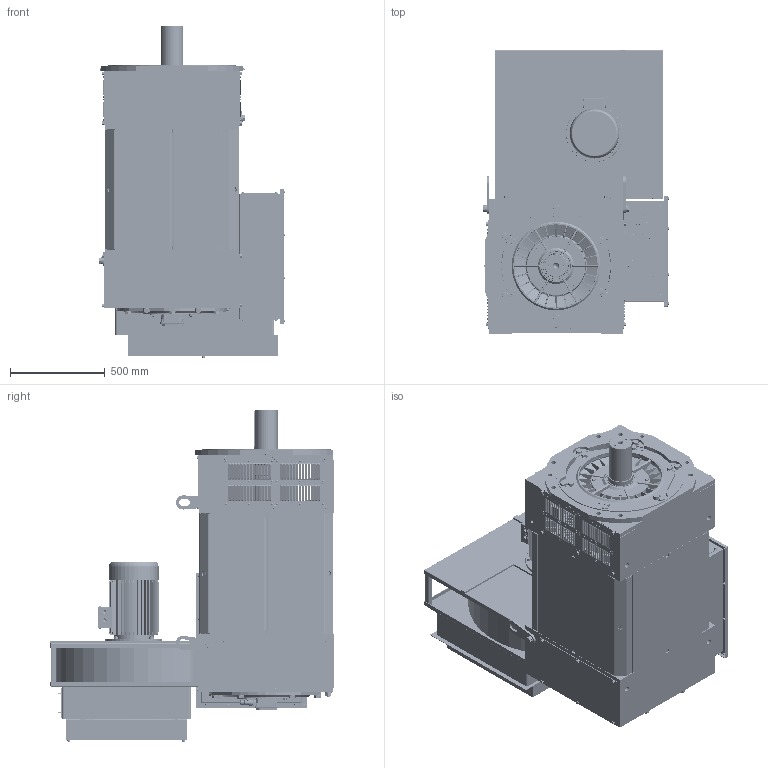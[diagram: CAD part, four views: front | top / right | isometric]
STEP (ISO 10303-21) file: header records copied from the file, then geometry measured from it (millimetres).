
FILE_DESCRIPTION (( 'STEP AP214' ), '1' );
FILE_NAME ('355_S_HQLa.STEP', '2023-01-21T09:45:29', ( '' ), ( '' ), 'SwSTEP 2.0', 'SolidWorks 2022', '' );
FILE_SCHEMA (( 'AUTOMOTIVE_DESIGN' ));
Length unit declared in the file: millimetre
Products named in the file (52): NU_226EC_SKF; plain washer normal grade c_iso_Washer ISO 7091 - 10; 3WU355PHA_S; hex nut style 2 gradeab_iso_ISO - 4033 - M10 - W - N; 3CU355PFA; 3DU355PGA_POST; hex screw gradec_din_DIN EN 24018 - M10 x 100-WN; 3YU335PMA_M; TIRANTE_M20_L1015; 3YU355PHA; plain washer chamfered grade a_iso_Washer ISO 7090 - 8; 3CU355PEA; pan head cross recess screw_iso_ISO 7045 - M5 x 10 - Z - 10N; FILTRO_700x630x100; 3AU355CAA_S; MOTORE_3F_7.5Kw_400v_50Hz; socket head cap screw_iso_ISO 4762 M3 x 6 - 6N; curved spring lock washer_din_Spring washer DIN 128 - A22; 3ZJ280PAA; curved spring lock washer_din_Spring washer DIN 128 - A10; 355_S_HQLa; curved spring lock washer_din_Spring washer DIN 128 - A20; hex bolt gradeb_iso_ISO 4015 - M20 x 65 x 46-N; slotted set screw flat point_iso_ISO 4766 - M10 x 50-N; 3ANELLO_TENUTA_130_160_12; hex nut style 2 gradeab_iso_ISO - 4033 - M5 - W - N; plain washer normal grade c_iso_Washer ISO 7091 - 5; 3WU355PAA_S; 3PU355PBA; 3DU355PGA_ANT; 3PU355PAA; hex screw gradec_iso_ISO 4018 - M10 x 20-NN; hex nut style 1 gradeab_din_Hexagon Nut ISO 4032 - M20 - W - N; 3DU355PCA; 3connettore10pin; TAPPO_66; 3YU355PCA; circlip for shafts normal_din_Circlip DIN 471 - 130 x 4; 3CONN10PIN; 3YU355PLA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
Assembly tree (211 placements, depth 2):
  355_S_HQLa
    3WU355PHA_S
    3YU355PAA  x2
    3CU355PEA
    3WU355PAA_S  x4
    3AU355CAA_S
    3DU355PCA
    3DU355PGA_ANT
    NU_226EC_SKF  x2
    6226_SKF
    parallel_din_Parallel key A32 x 18 x 200 DIN 6885
    3ZJ280PAA  x2
    circlip for shafts normal_din_Circlip DIN 471 - 130 x 4  x2
    3CU355PFA
    3DU355PGA_POST
    3PZ014PAA
    3YU335PMA_M
    3connettore10pin
    3CONN10PIN
    slotted set screw flat point_iso_ISO 4766 - M10 x 50-N  x4
    hex nut style 2 gradeab_iso_ISO - 4033 - M10 - W - N  x12
    pan head cross recess screw_iso_ISO 7045 - M5 x 10 - Z - 10N  x4
    socket head cap screw_iso_ISO 4762 M3 x 6 - 6N  x3
    3MU355PPA
    FILTRO_700x630x100
    CASTELLO_FILTRO_885x720x283
    MOTORE_3F_7.5Kw_400v_50Hz
    3PU355PAA
    3PU355PBA
    plain washer normal grade c_iso_Washer ISO 7091 - 5  x2
    hex nut style 2 gradeab_iso_ISO - 4033 - M5 - W - N  x2
    3YU355PCA  x2
    3YU355PHA  x2
    3YU355PLA
    3ANELLO_TENUTA_130_160_12
    TAPPO_66  x6
    plain washer normal grade c_iso_Washer ISO 7091 - 8  x24
    hex screw gradec_iso_ISO 4018 - M8 x 20-WN  x24
    plain washer normal grade c_iso_Washer ISO 7091 - 20  x21
    curved spring lock washer_din_Spring washer DIN 128 - A22  x3
    hex screw gradeab_din_DIN EN 24017 - M20 x 40-N  x3
    plain washer normal grade c_iso_Washer ISO 7091 - 10  x14
    hex screw gradec_iso_ISO 4018 - M10 x 20-NN  x14
    hex bolt gradeb_iso_ISO 4015 - M20 x 65 x 46-N  x18
    TIRANTE_M20_L1015  x2
    curved spring lock washer_din_Spring washer DIN 128 - A20  x2
    hex nut style 1 gradeab_din_Hexagon Nut ISO 4032 - M20 - W - N  x2
    curved spring lock washer_din_Spring washer DIN 128 - A10  x4
    hex screw gradec_din_DIN EN 24018 - M10 x 100-WN  x4
    INGRASSATORE_M8  x2
    plain washer chamfered grade a_iso_Washer ISO 7090 - 8  x2
    hex screw gradeab fine_iso_ISO 8676 - M8x1.0 x 16-N  x2
Bounding box: 981.98 x 1495 x 1753 mm (x, y, z)
Volume: 237963751.3 mm3; surface area: 38139871.9 mm2
Topology: 311 solids, 362 shells, 10918 faces, 26979 edges, 17125 vertices
Faces by surface type: plane 5583, cylinder 3423, cone 1033, bspline 499, torus 285, sphere 95
Full cylindrical faces by diameter (mm): 1.5 x10, 3 x3, 3.2 x4, 3.3 x1, 4 x4, 4.2 x2, 5 x13, 5.5 x11, 6 x1, 6.5 x12, 6.8 x24, 7 x4, 8 x40, 8.4 x2, 8.5 x52, 8.8 x2, 9 x24, 9.5 x4, 10 x120, 10.5 x2, 11 x57, 12 x50, 12.5 x16, 13 x26, 14 x9, 16 x45, 16.3 x8, 17 x6, 17.5 x38, 18.313 x4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
Entity records: 230678 total; most frequent: CARTESIAN_POINT 63431, ORIENTED_EDGE 32620, DIRECTION 32353, EDGE_CURVE 16332, AXIS2_PLACEMENT_3D 11620, VERTEX_POINT 10997, LINE 9113, VECTOR 9113
